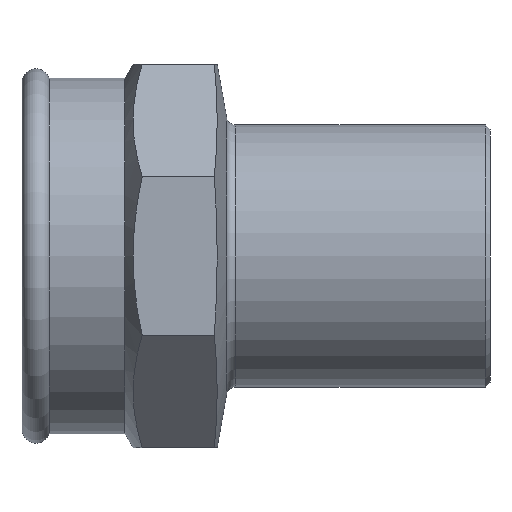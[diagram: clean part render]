
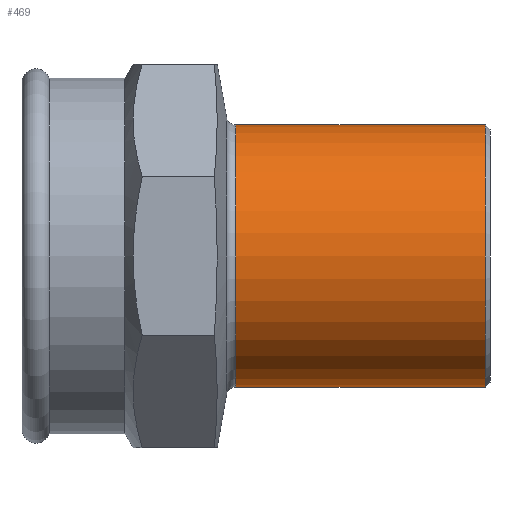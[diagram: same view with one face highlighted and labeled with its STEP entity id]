
A CAD part, left-side view. The second image highlights one B-rep face of the part: STEP entity #469.
In plain terms, the highlighted cylindrical face has radius 14 mm (diameter 28 mm), a partial arc.
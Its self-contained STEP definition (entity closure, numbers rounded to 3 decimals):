
#14 = DIRECTION ( 'NONE',  ( 0., 0., -1. ) ) ;
#28 = DIRECTION ( 'NONE',  ( 0., -1., 0. ) ) ;
#32 = CARTESIAN_POINT ( 'NONE',  ( 0., -17.811, -14. ) ) ;
#36 = DIRECTION ( 'NONE',  ( 0., 0., -1. ) ) ;
#66 = EDGE_CURVE ( 'NONE', #697, #139, #358, .T. ) ;
#86 = ORIENTED_EDGE ( 'NONE', *, *, #603, .T. ) ;
#98 = CARTESIAN_POINT ( 'NONE',  ( 0., 0.5, 0. ) ) ;
#134 = VERTEX_POINT ( 'NONE', #766 ) ;
#139 = VERTEX_POINT ( 'NONE', #653 ) ;
#154 = CARTESIAN_POINT ( 'NONE',  ( 0., 27.161, -14. ) ) ;
#159 = VERTEX_POINT ( 'NONE', #671 ) ;
#161 = VECTOR ( 'NONE', #1031, 1000. ) ;
#210 = DIRECTION ( 'NONE',  ( 0., -1., 0. ) ) ;
#270 = CIRCLE ( 'NONE', #985, 14. ) ;
#292 = LINE ( 'NONE', #556, #460 ) ;
#300 = EDGE_LOOP ( 'NONE', ( #380, #86, #517, #363 ) ) ;
#310 = DIRECTION ( 'NONE',  ( 0., -1., 0. ) ) ;
#335 = EDGE_CURVE ( 'NONE', #134, #139, #270, .T. ) ;
#358 = LINE ( 'NONE', #32, #161 ) ;
#363 = ORIENTED_EDGE ( 'NONE', *, *, #335, .F. ) ;
#380 = ORIENTED_EDGE ( 'NONE', *, *, #506, .F. ) ;
#393 = AXIS2_PLACEMENT_3D ( 'NONE', #730, #210, #36 ) ;
#460 = VECTOR ( 'NONE', #310, 1000. ) ;
#469 = ADVANCED_FACE ( 'NONE', ( #748 ), #967, .T. ) ;
#506 = EDGE_CURVE ( 'NONE', #159, #134, #292, .T. ) ;
#517 = ORIENTED_EDGE ( 'NONE', *, *, #66, .T. ) ;
#544 = DIRECTION ( 'NONE',  ( 0., -1., 0. ) ) ;
#550 = CARTESIAN_POINT ( 'NONE',  ( 0., 27.161, 0. ) ) ;
#556 = CARTESIAN_POINT ( 'NONE',  ( 0., -17.811, 14. ) ) ;
#603 = EDGE_CURVE ( 'NONE', #159, #697, #930, .T. ) ;
#646 = DIRECTION ( 'NONE',  ( 0., 0., -1. ) ) ;
#653 = CARTESIAN_POINT ( 'NONE',  ( 0., 0.5, -14. ) ) ;
#671 = CARTESIAN_POINT ( 'NONE',  ( 0., 27.161, 14. ) ) ;
#697 = VERTEX_POINT ( 'NONE', #154 ) ;
#730 = CARTESIAN_POINT ( 'NONE',  ( 0., -17.811, 0. ) ) ;
#748 = FACE_OUTER_BOUND ( 'NONE', #300, .T. ) ;
#766 = CARTESIAN_POINT ( 'NONE',  ( 0., 0.5, 14. ) ) ;
#783 = AXIS2_PLACEMENT_3D ( 'NONE', #550, #544, #646 ) ;
#930 = CIRCLE ( 'NONE', #783, 14. ) ;
#967 = CYLINDRICAL_SURFACE ( 'NONE', #393, 14. ) ;
#985 = AXIS2_PLACEMENT_3D ( 'NONE', #98, #28, #14 ) ;
#1031 = DIRECTION ( 'NONE',  ( 0., -1., 0. ) ) ;
